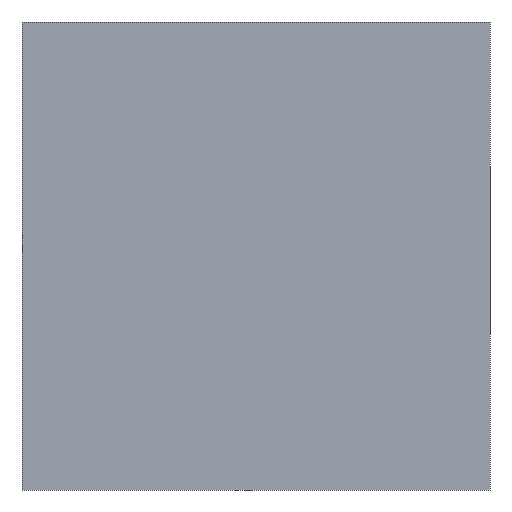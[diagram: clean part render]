
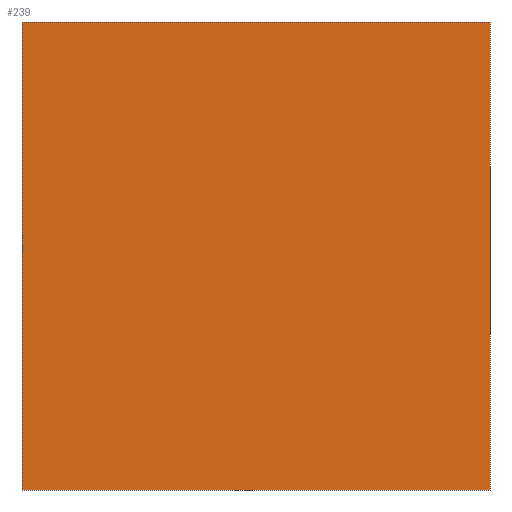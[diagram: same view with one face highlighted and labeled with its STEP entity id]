
A CAD part, front view. The second image highlights one B-rep face of the part: STEP entity #239.
In plain terms, the highlighted planar face has unit normal (0, -1, 0).
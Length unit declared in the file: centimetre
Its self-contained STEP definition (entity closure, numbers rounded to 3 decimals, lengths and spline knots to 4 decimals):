
#8 = VERTEX_POINT ( 'NONE', #156 ) ;
#21 = CARTESIAN_POINT ( 'NONE',  ( 1000., 0., 0. ) ) ;
#42 = VECTOR ( 'NONE', #259, 100. ) ;
#51 = LINE ( 'NONE', #85, #59 ) ;
#59 = VECTOR ( 'NONE', #311, 100. ) ;
#69 = DIRECTION ( 'NONE',  ( 0., 1., 0. ) ) ;
#85 = CARTESIAN_POINT ( 'NONE',  ( 0., 0., 1000. ) ) ;
#88 = CARTESIAN_POINT ( 'NONE',  ( 0., 0., 0. ) ) ;
#100 = EDGE_CURVE ( 'NONE', #8, #436, #114, .T. ) ;
#114 = LINE ( 'NONE', #334, #42 ) ;
#125 = LINE ( 'NONE', #88, #315 ) ;
#147 = VECTOR ( 'NONE', #267, 100. ) ;
#151 = EDGE_LOOP ( 'NONE', ( #164, #225, #191, #364 ) ) ;
#156 = CARTESIAN_POINT ( 'NONE',  ( 0., 0., 1000. ) ) ;
#163 = CARTESIAN_POINT ( 'NONE',  ( 1000., 0., 1000. ) ) ;
#164 = ORIENTED_EDGE ( 'NONE', *, *, #367, .T. ) ;
#170 = CARTESIAN_POINT ( 'NONE',  ( 1000., 0., 1000. ) ) ;
#191 = ORIENTED_EDGE ( 'NONE', *, *, #100, .F. ) ;
#207 = AXIS2_PLACEMENT_3D ( 'NONE', #251, #69, #215 ) ;
#215 = DIRECTION ( 'NONE',  ( 0., 0., 1. ) ) ;
#225 = ORIENTED_EDGE ( 'NONE', *, *, #312, .F. ) ;
#239 = ADVANCED_FACE ( 'NONE', ( #283 ), #426, .F. ) ;
#251 = CARTESIAN_POINT ( 'NONE',  ( 0., 0., 1000. ) ) ;
#259 = DIRECTION ( 'NONE',  ( 1., 0., 0. ) ) ;
#265 = VERTEX_POINT ( 'NONE', #433 ) ;
#267 = DIRECTION ( 'NONE',  ( 0., 0., -1. ) ) ;
#283 = FACE_OUTER_BOUND ( 'NONE', #151, .T. ) ;
#311 = DIRECTION ( 'NONE',  ( 0., 0., -1. ) ) ;
#312 = EDGE_CURVE ( 'NONE', #436, #472, #378, .T. ) ;
#315 = VECTOR ( 'NONE', #374, 100. ) ;
#334 = CARTESIAN_POINT ( 'NONE',  ( 0., 0., 1000. ) ) ;
#361 = EDGE_CURVE ( 'NONE', #8, #265, #51, .T. ) ;
#364 = ORIENTED_EDGE ( 'NONE', *, *, #361, .T. ) ;
#367 = EDGE_CURVE ( 'NONE', #265, #472, #125, .T. ) ;
#374 = DIRECTION ( 'NONE',  ( 1., 0., 0. ) ) ;
#378 = LINE ( 'NONE', #170, #147 ) ;
#426 = PLANE ( 'NONE',  #207 ) ;
#433 = CARTESIAN_POINT ( 'NONE',  ( 0., 0., 0. ) ) ;
#436 = VERTEX_POINT ( 'NONE', #163 ) ;
#472 = VERTEX_POINT ( 'NONE', #21 ) ;
